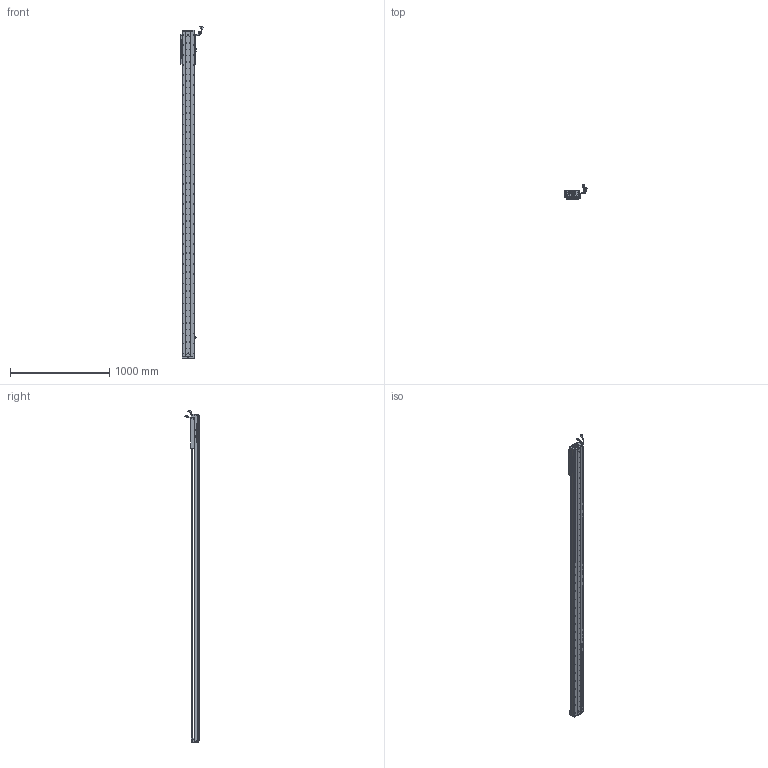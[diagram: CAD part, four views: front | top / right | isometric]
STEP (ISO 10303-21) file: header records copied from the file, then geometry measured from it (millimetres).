
FILE_DESCRIPTION (( 'STEP AP203' ), '1' );
FILE_NAME ('Z4-RY120D-1-L500-B-K.SLDASM_2900.step', '2021-05-17T06:12:01', ( '盈信电脑' ), ( '东莞市道滘镇水果街19号' ), 'SwSTEP 2.0', 'SolidWorks 2016', '' );
FILE_SCHEMA (( 'CONFIG_CONTROL_DESIGN' ));
Length unit declared in the file: millimetre
Products named in the file (37): 080黍杅芛假蚾釱21遴; PBU_SHEET; Z4-RY120-500-倰第菁釱_2900; Z-RY120D詩湍奻揤裔; SCALE; COVER-Part-1; PSLH080_PSLF2; RY100FB-遵嫖萇覜茼え; Z4-RY120铝滑块（21款）; 672嫖萇羲壽假蚾釱; SCREW-M1.6; SCREW-M1.6-3; 140蚥薯蝶輸; Z-120詩湍傷裔啣; SCALE-Part-1; 榋妏寠巭燃_暯_M2_2; SCALE-Part-2; Z4-RY120D-1-L500-B-K.SLDASM_2900; 覜茼ん672; LABEL-Part-1; 140雄赽晤鎢ん堤盄; Z-RY120D詩湍狟揤裔; HARNESS-Part-2; SCREW-M1.7; SEAL; LABEL; 120-Z-臏賑輸盄裔(21遴); SCREW-M1.6-1; HARNESS-Part-1; SCREW-M1.7-1; SEAL-Part-1; HOLDER0; SCREW-M1.6-2; COVER; SHIELDPLATE; HARNESS; Z4-RY120-L500詩湍100mm遵_2900
Assembly tree (43 placements, depth 4):
  Z4-RY120D-1-L500-B-K.SLDASM_2900
    Z4-RY120-500-倰第菁釱_2900
    覜茼ん672  x3
    672嫖萇羲壽假蚾釱  x2
    Z4-RY120铝滑块（21款）
    PSLH080_PSLF2
      SCALE
        SCALE-Part-1
        SCALE-Part-2
      HARNESS
        HARNESS-Part-1
        HARNESS-Part-2
      LABEL
        LABEL-Part-1
      COVER
        COVER-Part-1
      SEAL
        SEAL-Part-1
      榋妏寠巭燃_暯_M2_2
      SHIELDPLATE
      SCREW-M1.7
      SCREW-M1.7-1
      PBU_SHEET
      SCREW-M1.6
      SCREW-M1.6-1
      SCREW-M1.6-2
      SCREW-M1.6-3
      HOLDER0
    080黍杅芛假蚾釱21遴
    120-Z-臏賑輸盄裔(21遴)
    140雄赽晤鎢ん堤盄
    140蚥薯蝶輸  x2
    RY100FB-遵嫖萇覜茼え
    Z-120詩湍傷裔啣  x2
    Z-RY120D詩湍奻揤裔  x2
    Z-RY120D詩湍狟揤裔  x2
    Z4-RY120-L500詩湍100mm遵_2900
Bounding box: 222.83 x 140.94 x 3338.99 mm (x, y, z)
Volume: 7791277 mm3; surface area: 2712287.2 mm2
Topology: 38 solids, 38 shells, 4083 faces, 11798 edges, 7444 vertices
Faces by surface type: cylinder 2228, plane 1305, cone 428, torus 69, bspline 53
Entity records: 141327 total; most frequent: CARTESIAN_POINT 44694, ORIENTED_EDGE 20268, DIRECTION 18248, EDGE_CURVE 10134, AXIS2_PLACEMENT_3D 6774, VERTEX_POINT 6564, LINE 4700, VECTOR 4700
